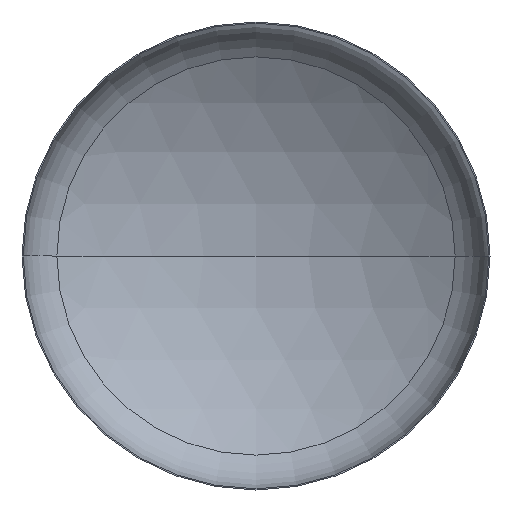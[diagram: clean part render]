
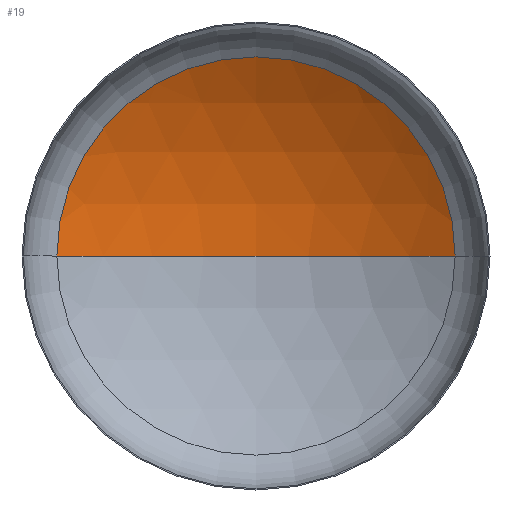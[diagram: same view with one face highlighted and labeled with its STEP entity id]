
A CAD part, front view. The second image highlights one B-rep face of the part: STEP entity #19.
In plain terms, the highlighted spherical face has radius 5200 mm.
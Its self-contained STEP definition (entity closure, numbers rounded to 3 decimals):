
#19 = ADVANCED_FACE ( 'NONE', ( #180 ), #260, .F. ) ;
#55 = AXIS2_PLACEMENT_3D ( 'NONE', #261, #177, #168 ) ;
#59 = CIRCLE ( 'NONE', #55, 5200. ) ;
#61 = AXIS2_PLACEMENT_3D ( 'NONE', #130, #147, #148 ) ;
#62 = AXIS2_PLACEMENT_3D ( 'NONE', #278, #276, #255 ) ;
#66 = CARTESIAN_POINT ( 'NONE',  ( 2765.905, 901.804, 0. ) ) ;
#83 = AXIS2_PLACEMENT_3D ( 'NONE', #236, #241, #247 ) ;
#103 = EDGE_CURVE ( 'NONE', #288, #141, #171, .T. ) ;
#104 = EDGE_CURVE ( 'NONE', #212, #288, #238, .T. ) ;
#107 = EDGE_CURVE ( 'NONE', #212, #141, #59, .T. ) ;
#124 = CARTESIAN_POINT ( 'NONE',  ( 0., 1698.422, 0. ) ) ;
#130 = CARTESIAN_POINT ( 'NONE',  ( 0., -3501.578, 0. ) ) ;
#141 = VERTEX_POINT ( 'NONE', #217 ) ;
#142 = ORIENTED_EDGE ( 'NONE', *, *, #103, .T. ) ;
#147 = DIRECTION ( 'NONE',  ( 0., 0., -1. ) ) ;
#148 = DIRECTION ( 'NONE',  ( -1., 0., 0. ) ) ;
#168 = DIRECTION ( 'NONE',  ( 1., 0., 0. ) ) ;
#171 = CIRCLE ( 'NONE', #62, 2765.905 ) ;
#177 = DIRECTION ( 'NONE',  ( 0., 0., 1. ) ) ;
#180 = FACE_OUTER_BOUND ( 'NONE', #362, .T. ) ;
#212 = VERTEX_POINT ( 'NONE', #124 ) ;
#217 = CARTESIAN_POINT ( 'NONE',  ( -2765.905, 901.804, 0. ) ) ;
#236 = CARTESIAN_POINT ( 'NONE',  ( 0., -3501.578, 0. ) ) ;
#238 = CIRCLE ( 'NONE', #61, 5200. ) ;
#241 = DIRECTION ( 'NONE',  ( 0., 0., -1. ) ) ;
#247 = DIRECTION ( 'NONE',  ( -1., 0., 0. ) ) ;
#255 = DIRECTION ( 'NONE',  ( 1., 0., 0. ) ) ;
#260 = SPHERICAL_SURFACE ( 'NONE', #83, 5200. ) ;
#261 = CARTESIAN_POINT ( 'NONE',  ( 0., -3501.578, 0. ) ) ;
#276 = DIRECTION ( 'NONE',  ( 0., -1., 0. ) ) ;
#278 = CARTESIAN_POINT ( 'NONE',  ( 0., 901.804, 0. ) ) ;
#288 = VERTEX_POINT ( 'NONE', #66 ) ;
#338 = ORIENTED_EDGE ( 'NONE', *, *, #104, .T. ) ;
#362 = EDGE_LOOP ( 'NONE', ( #373, #338, #142 ) ) ;
#373 = ORIENTED_EDGE ( 'NONE', *, *, #107, .F. ) ;
